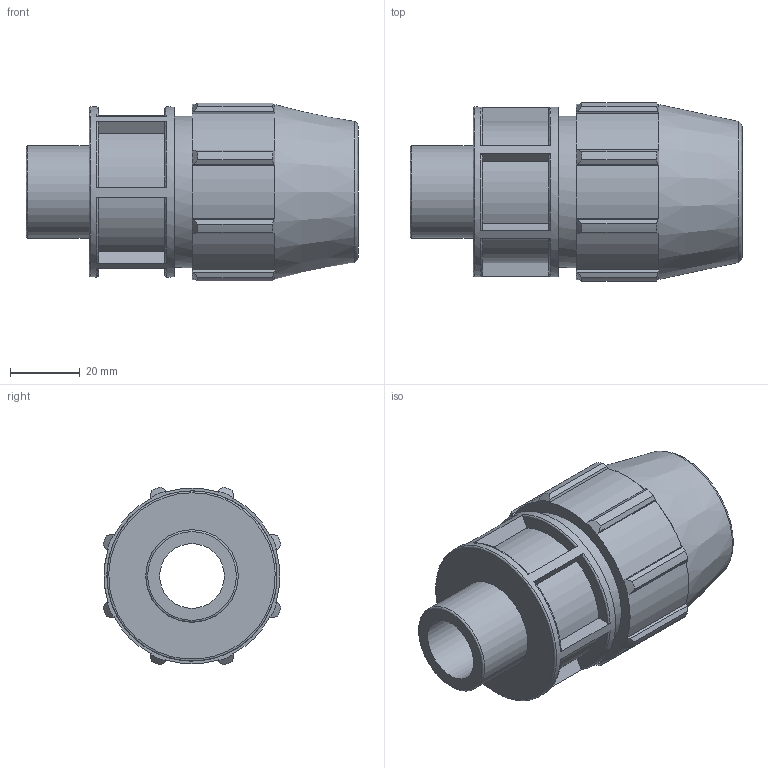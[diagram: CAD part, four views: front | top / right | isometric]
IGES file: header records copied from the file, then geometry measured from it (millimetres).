
Global section: file name: 0702M0007007.ipt; native system: Autodesk Inventor 2019; preprocessor: unknown; author: KIM; date: 20210826.124433; units: inch
Bounding box: 95 x 50.91 x 50.91 mm (x, y, z)
Volume: 91655.7 mm3; surface area: 26213.6 mm2
Topology: 1 solids, 1 shells, 117 faces, 321 edges, 216 vertices
Faces by surface type: plane 63, cylinder 25, revolution 19, cone 10
Full cylindrical faces by diameter (mm): 26.441 x1, 43.282 x1, 48.692 x1
